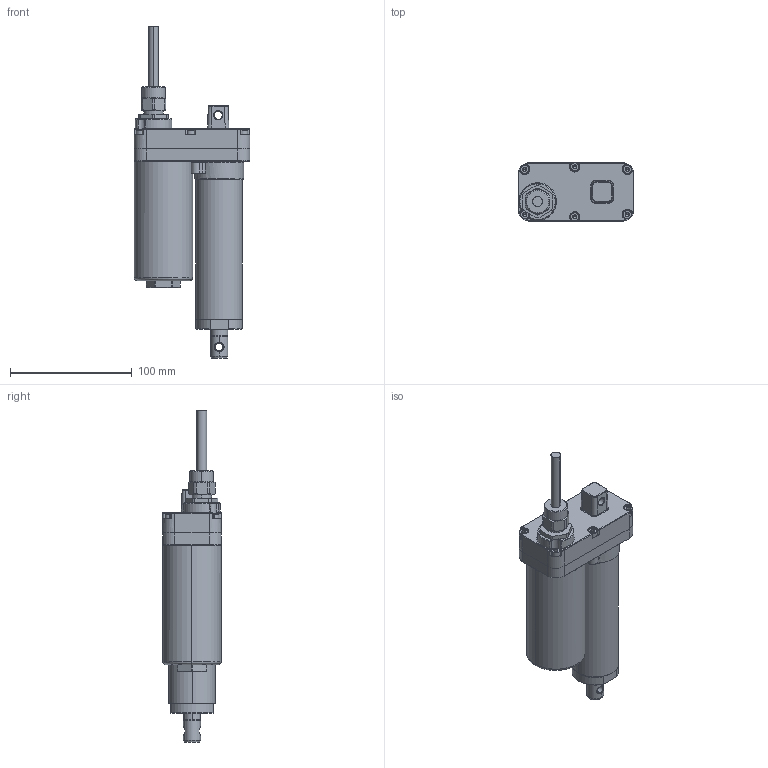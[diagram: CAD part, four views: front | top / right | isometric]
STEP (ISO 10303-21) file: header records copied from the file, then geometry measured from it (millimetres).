
FILE_DESCRIPTION((''),'2;1');
FILE_NAME('80_ASM','2024-07-03T14:41:21',('hzyf'),('捷昌驱动'),'CREO PARAMETRIC BY PTC INC, 2018500','CREO PARAMETRIC BY PTC INC, 2018500','');
FILE_SCHEMA(('CONFIG_CONTROL_DESIGN','GEOMETRIC_VALIDATION_PROPERTIES_MIM'));
Length unit declared in the file: millimetre
Products named in the file (13): 0002_33; 0003_9; 0004_21; 00_58; 00001_4; 20000_2; _14-1000_9; 00_12; 00_ASM_9_ASM; M4-1200_1; M200001_4; 000_ASM_35_ASM; 80_ASM
Assembly tree (17 placements, depth 4):
  80_ASM
    000_ASM_35_ASM
      0002_33
      0003_9
      0004_21
      00_ASM_9_ASM
        00_58
        00001_4
        20000_2
        _14-1000_9
        00_12
      M4-1200_1  x6
      M200001_4
Bounding box: 95 x 48 x 272.2 mm (x, y, z)
Volume: 278915 mm3; surface area: 139189.4 mm2
Topology: 15 solids, 39 shells, 1090 faces, 2843 edges, 1853 vertices
Faces by surface type: cylinder 434, plane 334, cone 241, torus 41, bspline 40
Entity records: 34176 total; most frequent: CARTESIAN_POINT 7516, DIRECTION 5697, ORIENTED_EDGE 4962, EDGE_CURVE 2519, AXIS2_PLACEMENT_3D 2361, VERTEX_POINT 1688, CIRCLE 1422, EDGE_LOOP 1031
